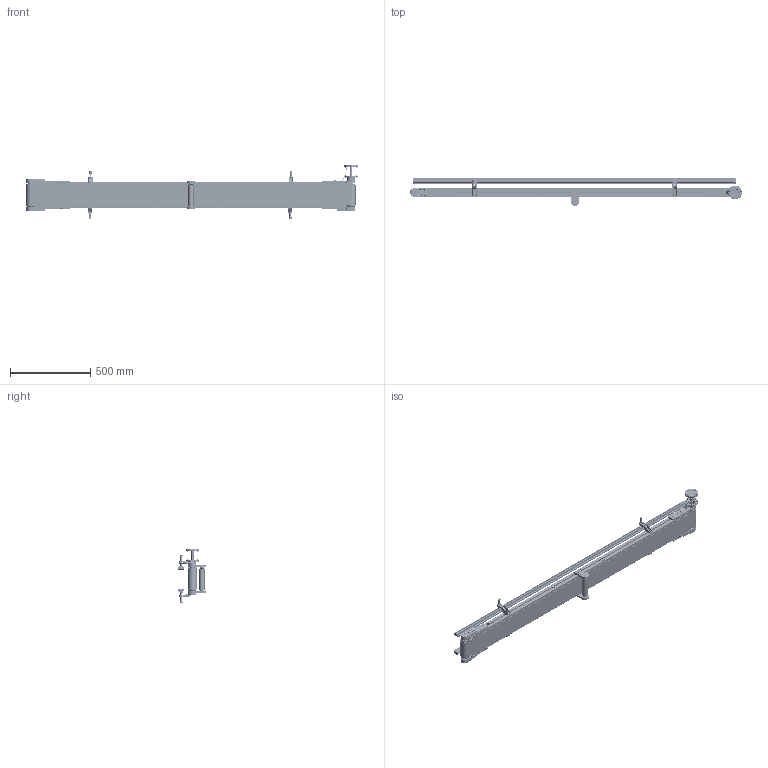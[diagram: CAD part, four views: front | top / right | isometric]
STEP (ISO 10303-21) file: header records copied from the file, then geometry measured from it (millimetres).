
FILE_DESCRIPTION (( 'STEP AP203' ), '1' );
FILE_NAME ('NASTRO_RETTILINEO_TAPPETO.step', '2026-05-07T08:58:00', ( 'Utente Windows' ), ( '' ), 'SwSTEP 2.0', 'SolidWorks 2024', '' );
FILE_SCHEMA (( 'CONFIG_CONTROL_DESIGN' ));
Length unit declared in the file: millimetre
Products named in the file (58): 14UNI7435; VITI TSEI UNI 5933_M5x12 UNI 5933; 084.711.006_PER CAVA 8 PERNO ALTO 1; BLOCCO_TRAINO_50_STANDARD_30_DX; DADI ESAGONALI NORMALI UNI 5588_M6 UNI 5588; 084.802.017_084.802.017; 084.802.062; 084.711.006_L2; 084.802.014; BLOCCO_BRACCIO_CH03P_VF30P; 084.302.000 DADI ALUSIC 13x13_084.302.004; CHIAVETTE_A 5x5x40 UNI 6604-69; 084.802.071; RULLO_REGGITAPPETO; TELAIO_50_STANDARD_Default<A macchina>; RONDELLE FASCIA LARGA UNI 6593_5.4x20 UNI 6593; BLOCCO_RINVIO_50_STANDARD; LAMIERA_STANDARD; SPONDA_Default<A macchina>; 084.807.002_084.807.002; 084.802.013-2; 084.303.001; 084.808.012; 084.811.001; VITI TSEI UNI 5933_M4x12 UNI 5933; 084.302.000 DADI ALUSIC 13x13-1_084.302.007; BLOCCO_TRAINO_50_STANDARD; VITE_RONDELLA_M8X20; 084.301.000 VITI ALUSIC_084.301.009; RULLO_50_Default<A macchina>; VITI TCEI UNI 5931_M6x12 UNI 5931; 084.810.001; TAPPETO_STANDARD; 084.711.005; VITE_DADO_M5X12; 084.803.018; 084.712.002; 084.802.061; BLOCCO_REGGITAPPETO; NASTRO_RETTILINEO_TAPPETO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
Assembly tree (122 placements, depth 4):
  NASTRO_RETTILINEO_TAPPETO
    TAPPETO_STANDARD
    TELAIO_50_STANDARD_Default<A macchina>
    LAMIERA_STANDARD
    RULLO_50_Default<A macchina>  x2
    BLOCCO_PERNO_50_30
      084.810.001
      084.811.001
      RONDELLE FASCIA LARGA UNI 6593_5.4x20 UNI 6593
      084.301.000 VITI ALUSIC_084.301.009
      CHIAVETTE_A 5x5x40 UNI 6604-69
      CHIAVETTE_A 5x5x20 UNI 6604-69
      14UNI7435
    BLOCCO_TRAINO_50_STANDARD_30_DX
      084.807.003_084.807.003<A macchina>
      084.802.017_084.802.017
      084.301.000 VITI ALUSIC_084.301.003  x2
      084.302.000 DADI ALUSIC 13x13-1_084.302.004  x2
      BLOCCO_BRACCIO_CH03P_VF30P
        084.808.012
        084.802.062
        084.802.061
        VITI TE UNI 5739_M6x16 UNI 5739  x4
        084.803.018
        VITI TCEI UNI 5931_M6x12 UNI 5931  x4
      084.802.065_Default<A macchina>
      VITI TCEI UNI 5931_M4x25 UNI 5931  x2
    BLOCCO_PERNO_50_RINVIO  x3
      084.811.004
      084.810.001
    BLOCCO_TRAINO_50_STANDARD
      084.807.002_084.807.002
      084.802.017_084.802.017
      084.301.000 VITI ALUSIC_084.301.003  x2
      084.302.000 DADI ALUSIC 13x13-1_084.302.004  x2
      VITI TSEI UNI 5933_M4x12 UNI 5933  x4
      084.802.071
      VITI TSEI UNI 5933 INOX_0412UNI5933A2  x2
    BLOCCO_RINVIO_50_STANDARD  x2
      084.807.002_084.807.002
      084.802.017_084.802.017
      084.802.008
      084.301.000 VITI ALUSIC_084.301.003
      084.302.000 DADI ALUSIC 13x13_084.302.004
      VITI TSEI UNI 5933_M4x10 UNI 5933
      084.802.071
    SPONDA_Default<A macchina>  x2
    084.711.006_PER CAVA 8 PERNO ALTO 1  x4
      084.711.006_L1
      084.711.006_L2
      084.711.007
      084.711.005
      084.711.010
      DADI ESAGONALI NORMALI UNI 5588_M6 UNI 5588
    084.712.002  x4
    VITE_RONDELLA_M8X20  x7
      084.303.001
      084.301.000 VITI ALUSIC_084.301.003
    VITE_DADO_M5X12  x10
      084.302.000 DADI ALUSIC 13x13-1_084.302.007
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Bounding box: 2069.5 x 174 x 340.43 mm (x, y, z)
Volume: 6631143.4 mm3; surface area: 5370757.7 mm2
Topology: 187 solids, 193 shells, 8696 faces, 22359 edges, 14196 vertices
Faces by surface type: plane 4124, cylinder 2578, cone 719, bspline 644, torus 537, sphere 94
Entity records: 156922 total; most frequent: CARTESIAN_POINT 44247, ORIENTED_EDGE 22854, DIRECTION 20860, EDGE_CURVE 11427, VERTEX_POINT 7360, AXIS2_PLACEMENT_3D 7135, LINE 6590, VECTOR 6590
